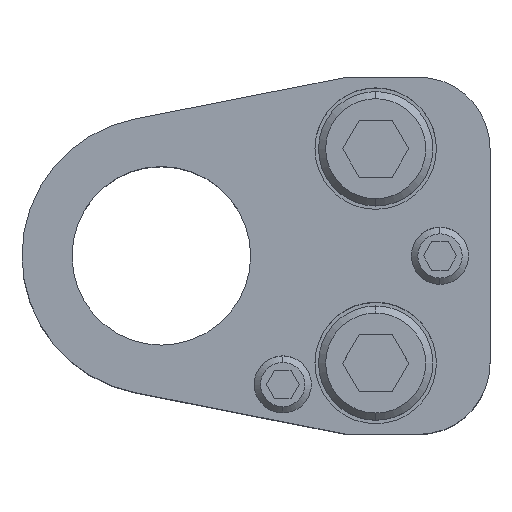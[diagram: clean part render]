
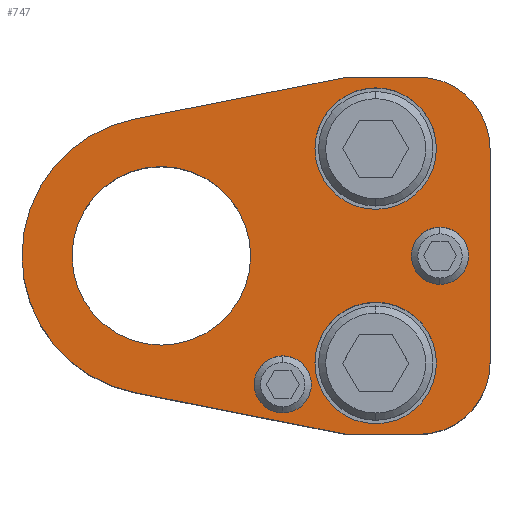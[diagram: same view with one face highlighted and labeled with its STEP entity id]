
A CAD part, top view. The second image highlights one B-rep face of the part: STEP entity #747.
In plain terms, the highlighted planar face has unit normal (0, 0, 1).
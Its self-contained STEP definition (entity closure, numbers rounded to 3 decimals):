
#429=LINE('',#3637,#593);
#433=LINE('',#3646,#597);
#437=LINE('',#3658,#601);
#441=LINE('',#3670,#605);
#444=LINE('',#3676,#608);
#593=VECTOR('',#2930,1.);
#597=VECTOR('',#2936,1.);
#601=VECTOR('',#2948,1.);
#605=VECTOR('',#2960,1.);
#608=VECTOR('',#2965,1.);
#747=ADVANCED_FACE('',(#853,#854,#855,#856,#857,#858),#823,.T.);
#823=PLANE('',#2443);
#853=FACE_BOUND('',#997,.T.);
#854=FACE_BOUND('',#998,.T.);
#855=FACE_BOUND('',#999,.T.);
#856=FACE_BOUND('',#1000,.T.);
#857=FACE_BOUND('',#1001,.T.);
#858=FACE_BOUND('',#1002,.T.);
#997=EDGE_LOOP('',(#1511,#1512,#1513,#1514,#1515,#1516,#1517,#1518));
#998=EDGE_LOOP('',(#1519,#1520));
#999=EDGE_LOOP('',(#1521,#1522));
#1000=EDGE_LOOP('',(#1523,#1524));
#1001=EDGE_LOOP('',(#1525,#1526));
#1002=EDGE_LOOP('',(#1527,#1528));
#1511=ORIENTED_EDGE('',*,*,#2004,.T.);
#1512=ORIENTED_EDGE('',*,*,#2008,.T.);
#1513=ORIENTED_EDGE('',*,*,#2011,.T.);
#1514=ORIENTED_EDGE('',*,*,#2014,.T.);
#1515=ORIENTED_EDGE('',*,*,#2017,.T.);
#1516=ORIENTED_EDGE('',*,*,#2020,.T.);
#1517=ORIENTED_EDGE('',*,*,#2023,.T.);
#1518=ORIENTED_EDGE('',*,*,#2026,.T.);
#1519=ORIENTED_EDGE('',*,*,#2061,.F.);
#1520=ORIENTED_EDGE('',*,*,#2062,.F.);
#1521=ORIENTED_EDGE('',*,*,#2063,.F.);
#1522=ORIENTED_EDGE('',*,*,#2064,.F.);
#1523=ORIENTED_EDGE('',*,*,#2051,.F.);
#1524=ORIENTED_EDGE('',*,*,#2047,.F.);
#1525=ORIENTED_EDGE('',*,*,#2045,.F.);
#1526=ORIENTED_EDGE('',*,*,#2041,.F.);
#1527=ORIENTED_EDGE('',*,*,#2065,.T.);
#1528=ORIENTED_EDGE('',*,*,#2066,.T.);
#1744=VERTEX_POINT('',#3636);
#1745=VERTEX_POINT('',#3638);
#1748=VERTEX_POINT('',#3645);
#1750=VERTEX_POINT('',#3651);
#1752=VERTEX_POINT('',#3657);
#1754=VERTEX_POINT('',#3663);
#1756=VERTEX_POINT('',#3669);
#1758=VERTEX_POINT('',#3675);
#1771=VERTEX_POINT('',#3712);
#1772=VERTEX_POINT('',#3713);
#1775=VERTEX_POINT('',#3724);
#1776=VERTEX_POINT('',#3725);
#1783=VERTEX_POINT('',#3752);
#1784=VERTEX_POINT('',#3753);
#1785=VERTEX_POINT('',#3756);
#1786=VERTEX_POINT('',#3757);
#1787=VERTEX_POINT('',#3760);
#1788=VERTEX_POINT('',#3761);
#2004=EDGE_CURVE('',#1745,#1744,#429,.T.);
#2008=EDGE_CURVE('',#1744,#1748,#433,.T.);
#2011=EDGE_CURVE('',#1748,#1750,#2171,.T.);
#2014=EDGE_CURVE('',#1750,#1752,#437,.T.);
#2017=EDGE_CURVE('',#1752,#1754,#2173,.T.);
#2020=EDGE_CURVE('',#1754,#1756,#441,.T.);
#2023=EDGE_CURVE('',#1756,#1758,#444,.T.);
#2026=EDGE_CURVE('',#1758,#1745,#2176,.T.);
#2041=EDGE_CURVE('',#1771,#1772,#2189,.T.);
#2045=EDGE_CURVE('',#1772,#1771,#2191,.T.);
#2047=EDGE_CURVE('',#1775,#1776,#2193,.T.);
#2051=EDGE_CURVE('',#1776,#1775,#2195,.T.);
#2061=EDGE_CURVE('',#1783,#1784,#2201,.T.);
#2062=EDGE_CURVE('',#1784,#1783,#2202,.T.);
#2063=EDGE_CURVE('',#1785,#1786,#2203,.T.);
#2064=EDGE_CURVE('',#1786,#1785,#2204,.T.);
#2065=EDGE_CURVE('',#1787,#1788,#2205,.T.);
#2066=EDGE_CURVE('',#1788,#1787,#2206,.T.);
#2171=CIRCLE('',#2390,10.);
#2173=CIRCLE('',#2394,10.);
#2176=CIRCLE('',#2400,19.5);
#2189=CIRCLE('',#2417,4.);
#2191=CIRCLE('',#2420,4.);
#2193=CIRCLE('',#2423,4.);
#2195=CIRCLE('',#2426,4.);
#2201=CIRCLE('',#2437,8.5);
#2202=CIRCLE('',#2438,8.5);
#2203=CIRCLE('',#2439,8.5);
#2204=CIRCLE('',#2440,8.5);
#2205=CIRCLE('',#2441,12.5);
#2206=CIRCLE('',#2442,12.5);
#2390=AXIS2_PLACEMENT_3D('',#3652,#2941,#2942);
#2394=AXIS2_PLACEMENT_3D('',#3664,#2953,#2954);
#2400=AXIS2_PLACEMENT_3D('',#3680,#2971,#2972);
#2417=AXIS2_PLACEMENT_3D('',#3711,#3007,#3008);
#2420=AXIS2_PLACEMENT_3D('',#3720,#3015,#3016);
#2423=AXIS2_PLACEMENT_3D('',#3723,#3021,#3022);
#2426=AXIS2_PLACEMENT_3D('',#3732,#3029,#3030);
#2437=AXIS2_PLACEMENT_3D('',#3751,#3055,#3056);
#2438=AXIS2_PLACEMENT_3D('',#3754,#3057,#3058);
#2439=AXIS2_PLACEMENT_3D('',#3755,#3059,#3060);
#2440=AXIS2_PLACEMENT_3D('',#3758,#3061,#3062);
#2441=AXIS2_PLACEMENT_3D('',#3759,#3063,#3064);
#2442=AXIS2_PLACEMENT_3D('',#3762,#3065,#3066);
#2443=AXIS2_PLACEMENT_3D('',#3763,#3067,#3068);
#2930=DIRECTION('',(0.981,-0.193,0.));
#2936=DIRECTION('',(1.,0.,0.));
#2941=DIRECTION('',(0.,0.,1.));
#2942=DIRECTION('',(-0.707,0.707,0.));
#2948=DIRECTION('',(0.,1.,0.));
#2953=DIRECTION('',(0.,0.,1.));
#2954=DIRECTION('',(-0.707,-0.707,0.));
#2960=DIRECTION('',(-1.,0.,0.));
#2965=DIRECTION('',(-0.981,-0.193,0.));
#2971=DIRECTION('',(0.,0.,1.));
#2972=DIRECTION('',(1.,0.,0.));
#3007=DIRECTION('',(0.,0.,1.));
#3008=DIRECTION('',(-1.,0.,0.));
#3015=DIRECTION('',(0.,0.,1.));
#3016=DIRECTION('',(1.,0.,0.));
#3021=DIRECTION('',(0.,0.,1.));
#3022=DIRECTION('',(-1.,0.,0.));
#3029=DIRECTION('',(0.,0.,1.));
#3030=DIRECTION('',(1.,0.,0.));
#3055=DIRECTION('',(0.,0.,1.));
#3056=DIRECTION('',(1.,0.,0.));
#3057=DIRECTION('',(0.,0.,1.));
#3058=DIRECTION('',(-1.,0.,0.));
#3059=DIRECTION('',(0.,0.,1.));
#3060=DIRECTION('',(1.,0.,0.));
#3061=DIRECTION('',(0.,0.,1.));
#3062=DIRECTION('',(-1.,0.,0.));
#3063=DIRECTION('',(0.,0.,-1.));
#3064=DIRECTION('',(-1.,0.,0.));
#3065=DIRECTION('',(0.,0.,-1.));
#3066=DIRECTION('',(1.,0.,0.));
#3067=DIRECTION('',(0.,0.,1.));
#3068=DIRECTION('',(0.981,-0.193,0.));
#3636=CARTESIAN_POINT('',(26.,-25.,35.));
#3637=CARTESIAN_POINT('',(26.,-25.,35.));
#3638=CARTESIAN_POINT('',(-3.771,-19.132,35.));
#3645=CARTESIAN_POINT('',(36.,-25.,35.));
#3646=CARTESIAN_POINT('',(26.,-25.,35.));
#3651=CARTESIAN_POINT('',(46.,-15.,35.));
#3652=CARTESIAN_POINT('',(36.,-15.,35.));
#3657=CARTESIAN_POINT('',(46.,15.,35.));
#3658=CARTESIAN_POINT('',(46.,15.,35.));
#3663=CARTESIAN_POINT('',(36.,25.,35.));
#3664=CARTESIAN_POINT('',(36.,15.,35.));
#3669=CARTESIAN_POINT('',(26.,25.,35.));
#3670=CARTESIAN_POINT('',(26.,25.,35.));
#3675=CARTESIAN_POINT('',(-3.771,19.132,35.));
#3676=CARTESIAN_POINT('',(26.,25.,35.));
#3680=CARTESIAN_POINT('',(0.,0.,35.));
#3711=CARTESIAN_POINT('',(17.,-18.,35.));
#3712=CARTESIAN_POINT('',(17.,-22.,35.));
#3713=CARTESIAN_POINT('',(17.,-14.,35.));
#3720=CARTESIAN_POINT('',(17.,-18.,35.));
#3723=CARTESIAN_POINT('',(39.,0.,35.));
#3724=CARTESIAN_POINT('',(39.,-4.,35.));
#3725=CARTESIAN_POINT('',(39.,4.,35.));
#3732=CARTESIAN_POINT('',(39.,0.,35.));
#3751=CARTESIAN_POINT('',(30.,15.,35.));
#3752=CARTESIAN_POINT('',(30.,23.5,35.));
#3753=CARTESIAN_POINT('',(30.,6.5,35.));
#3754=CARTESIAN_POINT('',(30.,15.,35.));
#3755=CARTESIAN_POINT('',(30.,-15.,35.));
#3756=CARTESIAN_POINT('',(30.,-6.5,35.));
#3757=CARTESIAN_POINT('',(30.,-23.5,35.));
#3758=CARTESIAN_POINT('',(30.,-15.,35.));
#3759=CARTESIAN_POINT('',(0.,0.,35.));
#3760=CARTESIAN_POINT('',(0.,12.5,35.));
#3761=CARTESIAN_POINT('',(0.,-12.5,35.));
#3762=CARTESIAN_POINT('',(0.,0.,35.));
#3763=CARTESIAN_POINT('',(-3.771,-19.132,35.));
